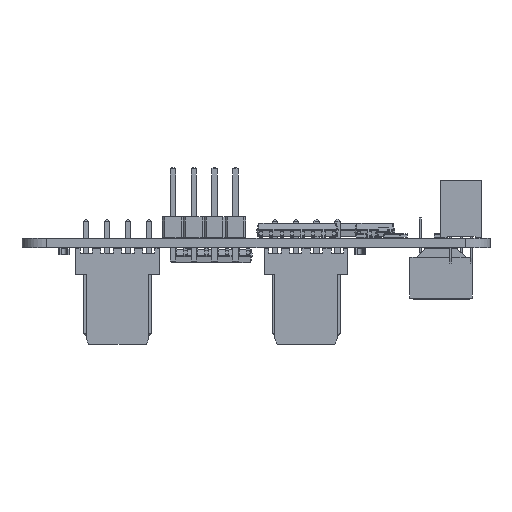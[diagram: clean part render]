
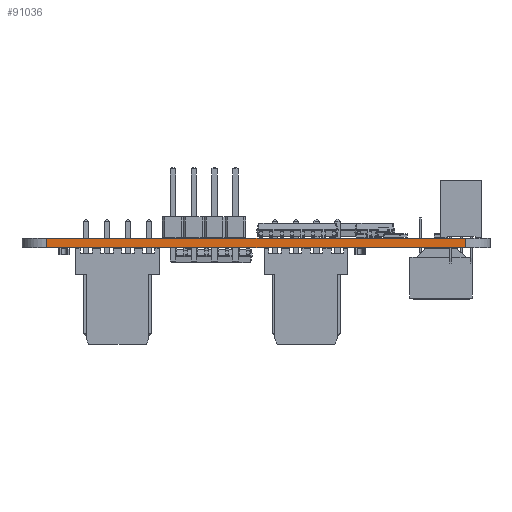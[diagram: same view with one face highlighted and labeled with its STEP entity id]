
A CAD part, left-side view. The second image highlights one B-rep face of the part: STEP entity #91036.
In plain terms, the highlighted planar face has unit normal (-1, 0, 0).
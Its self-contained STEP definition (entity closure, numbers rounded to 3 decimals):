
#91036 = ADVANCED_FACE('',(#91037),#91051,.F.);
#91037 = FACE_BOUND('',#91038,.F.);
#91038 = EDGE_LOOP('',(#91039,#91074,#91102,#91130));
#91039 = ORIENTED_EDGE('',*,*,#91040,.T.);
#91040 = EDGE_CURVE('',#91041,#91043,#91045,.T.);
#91041 = VERTEX_POINT('',#91042);
#91042 = CARTESIAN_POINT('',(0.,-2.,0.));
#91043 = VERTEX_POINT('',#91044);
#91044 = CARTESIAN_POINT('',(0.,-2.,1.2));
#91045 = SURFACE_CURVE('',#91046,(#91050,#91062),.PCURVE_S1.);
#91046 = LINE('',#91047,#91048);
#91047 = CARTESIAN_POINT('',(0.,-2.,0.));
#91048 = VECTOR('',#91049,1.);
#91049 = DIRECTION('',(0.,0.,1.));
#91050 = PCURVE('',#91051,#91056);
#91051 = PLANE('',#91052);
#91052 = AXIS2_PLACEMENT_3D('',#91053,#91054,#91055);
#91053 = CARTESIAN_POINT('',(0.,-2.,0.));
#91054 = DIRECTION('',(1.,0.,0.));
#91055 = DIRECTION('',(0.,-1.,0.));
#91056 = DEFINITIONAL_REPRESENTATION('',(#91057),#91061);
#91057 = LINE('',#91058,#91059);
#91058 = CARTESIAN_POINT('',(0.,0.));
#91059 = VECTOR('',#91060,1.);
#91060 = DIRECTION('',(0.,-1.));
#91061 = ( GEOMETRIC_REPRESENTATION_CONTEXT(2) 
PARAMETRIC_REPRESENTATION_CONTEXT() REPRESENTATION_CONTEXT('2D SPACE',''
  ) );
#91062 = PCURVE('',#91063,#91068);
#91063 = CYLINDRICAL_SURFACE('',#91064,3.);
#91064 = AXIS2_PLACEMENT_3D('',#91065,#91066,#91067);
#91065 = CARTESIAN_POINT('',(3.,-2.,0.));
#91066 = DIRECTION('',(0.,0.,-1.));
#91067 = DIRECTION('',(1.,0.,0.));
#91068 = DEFINITIONAL_REPRESENTATION('',(#91069),#91073);
#91069 = LINE('',#91070,#91071);
#91070 = CARTESIAN_POINT('',(-3.142,0.));
#91071 = VECTOR('',#91072,1.);
#91072 = DIRECTION('',(0.,-1.));
#91073 = ( GEOMETRIC_REPRESENTATION_CONTEXT(2) 
PARAMETRIC_REPRESENTATION_CONTEXT() REPRESENTATION_CONTEXT('2D SPACE',''
  ) );
#91074 = ORIENTED_EDGE('',*,*,#91075,.T.);
#91075 = EDGE_CURVE('',#91043,#91076,#91078,.T.);
#91076 = VERTEX_POINT('',#91077);
#91077 = CARTESIAN_POINT('',(0.,-53.,1.2));
#91078 = SURFACE_CURVE('',#91079,(#91083,#91090),.PCURVE_S1.);
#91079 = LINE('',#91080,#91081);
#91080 = CARTESIAN_POINT('',(0.,-2.,1.2));
#91081 = VECTOR('',#91082,1.);
#91082 = DIRECTION('',(0.,-1.,0.));
#91083 = PCURVE('',#91051,#91084);
#91084 = DEFINITIONAL_REPRESENTATION('',(#91085),#91089);
#91085 = LINE('',#91086,#91087);
#91086 = CARTESIAN_POINT('',(0.,-1.2));
#91087 = VECTOR('',#91088,1.);
#91088 = DIRECTION('',(1.,0.));
#91089 = ( GEOMETRIC_REPRESENTATION_CONTEXT(2) 
PARAMETRIC_REPRESENTATION_CONTEXT() REPRESENTATION_CONTEXT('2D SPACE',''
  ) );
#91090 = PCURVE('',#91091,#91096);
#91091 = PLANE('',#91092);
#91092 = AXIS2_PLACEMENT_3D('',#91093,#91094,#91095);
#91093 = CARTESIAN_POINT('',(42.5,-27.499,1.2));
#91094 = DIRECTION('',(0.,0.,1.));
#91095 = DIRECTION('',(1.,0.,0.));
#91096 = DEFINITIONAL_REPRESENTATION('',(#91097),#91101);
#91097 = LINE('',#91098,#91099);
#91098 = CARTESIAN_POINT('',(-42.5,25.499));
#91099 = VECTOR('',#91100,1.);
#91100 = DIRECTION('',(0.,-1.));
#91101 = ( GEOMETRIC_REPRESENTATION_CONTEXT(2) 
PARAMETRIC_REPRESENTATION_CONTEXT() REPRESENTATION_CONTEXT('2D SPACE',''
  ) );
#91102 = ORIENTED_EDGE('',*,*,#91103,.F.);
#91103 = EDGE_CURVE('',#91104,#91076,#91106,.T.);
#91104 = VERTEX_POINT('',#91105);
#91105 = CARTESIAN_POINT('',(0.,-53.,0.));
#91106 = SURFACE_CURVE('',#91107,(#91111,#91118),.PCURVE_S1.);
#91107 = LINE('',#91108,#91109);
#91108 = CARTESIAN_POINT('',(0.,-53.,0.));
#91109 = VECTOR('',#91110,1.);
#91110 = DIRECTION('',(0.,0.,1.));
#91111 = PCURVE('',#91051,#91112);
#91112 = DEFINITIONAL_REPRESENTATION('',(#91113),#91117);
#91113 = LINE('',#91114,#91115);
#91114 = CARTESIAN_POINT('',(51.,0.));
#91115 = VECTOR('',#91116,1.);
#91116 = DIRECTION('',(0.,-1.));
#91117 = ( GEOMETRIC_REPRESENTATION_CONTEXT(2) 
PARAMETRIC_REPRESENTATION_CONTEXT() REPRESENTATION_CONTEXT('2D SPACE',''
  ) );
#91118 = PCURVE('',#91119,#91124);
#91119 = CYLINDRICAL_SURFACE('',#91120,3.);
#91120 = AXIS2_PLACEMENT_3D('',#91121,#91122,#91123);
#91121 = CARTESIAN_POINT('',(3.,-53.,0.));
#91122 = DIRECTION('',(0.,0.,-1.));
#91123 = DIRECTION('',(1.,0.,0.));
#91124 = DEFINITIONAL_REPRESENTATION('',(#91125),#91129);
#91125 = LINE('',#91126,#91127);
#91126 = CARTESIAN_POINT('',(-3.142,0.));
#91127 = VECTOR('',#91128,1.);
#91128 = DIRECTION('',(0.,-1.));
#91129 = ( GEOMETRIC_REPRESENTATION_CONTEXT(2) 
PARAMETRIC_REPRESENTATION_CONTEXT() REPRESENTATION_CONTEXT('2D SPACE',''
  ) );
#91130 = ORIENTED_EDGE('',*,*,#91131,.F.);
#91131 = EDGE_CURVE('',#91041,#91104,#91132,.T.);
#91132 = SURFACE_CURVE('',#91133,(#91137,#91144),.PCURVE_S1.);
#91133 = LINE('',#91134,#91135);
#91134 = CARTESIAN_POINT('',(0.,-2.,0.));
#91135 = VECTOR('',#91136,1.);
#91136 = DIRECTION('',(0.,-1.,0.));
#91137 = PCURVE('',#91051,#91138);
#91138 = DEFINITIONAL_REPRESENTATION('',(#91139),#91143);
#91139 = LINE('',#91140,#91141);
#91140 = CARTESIAN_POINT('',(0.,0.));
#91141 = VECTOR('',#91142,1.);
#91142 = DIRECTION('',(1.,0.));
#91143 = ( GEOMETRIC_REPRESENTATION_CONTEXT(2) 
PARAMETRIC_REPRESENTATION_CONTEXT() REPRESENTATION_CONTEXT('2D SPACE',''
  ) );
#91144 = PCURVE('',#91145,#91150);
#91145 = PLANE('',#91146);
#91146 = AXIS2_PLACEMENT_3D('',#91147,#91148,#91149);
#91147 = CARTESIAN_POINT('',(42.5,-27.499,0.));
#91148 = DIRECTION('',(0.,0.,1.));
#91149 = DIRECTION('',(1.,0.,0.));
#91150 = DEFINITIONAL_REPRESENTATION('',(#91151),#91155);
#91151 = LINE('',#91152,#91153);
#91152 = CARTESIAN_POINT('',(-42.5,25.499));
#91153 = VECTOR('',#91154,1.);
#91154 = DIRECTION('',(0.,-1.));
#91155 = ( GEOMETRIC_REPRESENTATION_CONTEXT(2) 
PARAMETRIC_REPRESENTATION_CONTEXT() REPRESENTATION_CONTEXT('2D SPACE',''
  ) );
